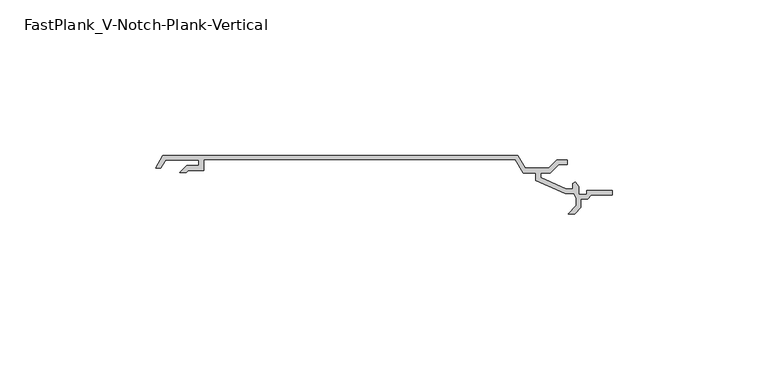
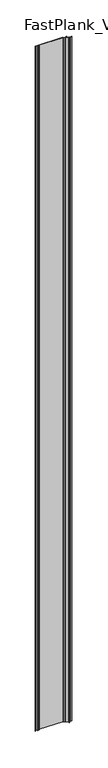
"""IFC4 building model written with IfcOpenShell, lengths in millimetres: plate geometry, FastPlank_V-Notch-Plank-Vertical : P44V-V-Notch-4″-Plank-Vertical."""

from ifc_helpers import new_model, si_unit, origin, origin_with_axes, place, context, project, spatial, polyline, outline, extrude, source, transform, mapped, element, save


def fastplank_v_notch_plank_vertical_124b619d(model_context):
    return source(origin(), model_context, "Body", "SweptSolid", [
        extrude(outline(polyline([(-44.1886868, 14.0246043), (-49.0872795, 14.0246043), (-49.7955902, 13.3162936), (-51.9141408, 13.3162936), (-49.7058331, 15.5246013), (-45.6922326, 15.5246013), (-45.6922326, 17.3745976), (-56.4132112, 17.3745976), (-57.942997, 14.7246029), (-59.6749907, 14.7246029), (-57.2792884, 18.8745946), (56.7790753, 18.8745946), (59.1750741, 14.7246029), (66.689788, 14.7246029), (69.3397827, 17.3745976), (72.6476508, 17.3745976), (72.6476508, 15.8746006), (69.9611018, 15.8746006), (67.3111071, 13.2246059), (64.1236389, 13.2246059), (64.1236389, 11.708109), (72.327211, 8.0338609), (74.5308093, 8.0338609), (74.5308093, 9.7191932), (75.2977844, 10.3184198), (76.465969, 8.8232117), (76.465969, 6.2821578), (78.9328658, 6.2821578), (78.9328658, 7.5321553), (87.2659811, 7.5321553), (87.2659811, 6.0321583), (80.4177216, 6.0321583), (79.318763, 4.7821608), (76.9900769, 4.7821608), (76.9900769, 2.1334241), (75.1144374, 0.0), (72.996347, 0.0), (75.6900795, 2.6937325), (75.6900795, 5.0811989), (74.8513829, 6.5338639), (72.0359091, 6.5338639), (62.6489583, 10.7243127), (62.6489583, 13.2246059), (58.5399901, 13.2246059), (56.0285214, 17.5745972), (-44.1886868, 17.5745972), (-44.1886868, 14.0246043)])), origin_with_axes(), (0.0, 0.0, 1.0), 3024.7636711),
    ])


if __name__ == "__main__":
    model = new_model("IFC4")
    model_context = context("Model", 3, world=origin())
    ifc_project = project(units=[si_unit("LENGTHUNIT", "METRE", prefix="MILLI")], contexts=[model_context])
    site = spatial("IfcSite", under=ifc_project)
    building = spatial("IfcBuilding", under=site)
    placement = place(None, origin())
    fastplank_v_notch_plank_vertical_shape = fastplank_v_notch_plank_vertical_124b619d(model_context)
    element("IfcPlate", 1, ObjectType="FastPlank_V-Notch-Plank-Vertical : P44V-V-Notch-4″-Plank-Vertical", at=placement, inside=building, context=model_context, shape_type="MappedRepresentation", body=[
        mapped(fastplank_v_notch_plank_vertical_shape, transform((0.0, 0.0, 0.0), x_axis=(1.0, 0.0, 0.0), y_axis=(0.0, 1.0, 0.0), z_axis=(0.0, 0.0, 1.0))),
    ])
    save(model, "model.ifc")
